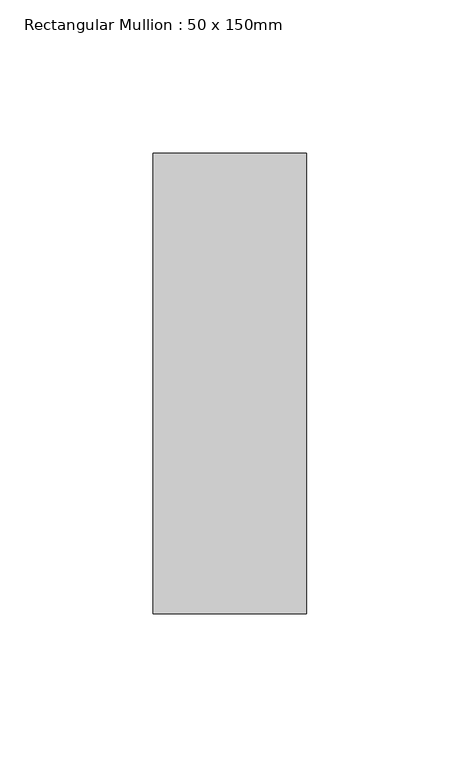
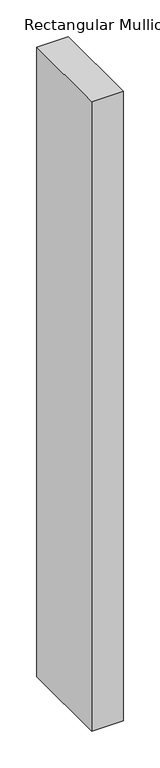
"""IFC4 building model written with IfcOpenShell, lengths in millimetres: member geometry, Rectangular Mullion : 50 x 150mm."""

from ifc_helpers import new_model, si_unit, frame, origin, place, context, project, spatial, polyline, outline, extrude, source, transform, mapped, element, save


def rectangular_mullion_50_x_150mm_02dbcc17(model_context):
    return source(origin(), model_context, "Body", "SweptSolid", [
        extrude(outline(polyline([(0.0, 75.0), (0.0, -75.0), (-50.0, -75.0), (-50.0, 75.0), (0.0, 75.0)])), frame((0.0, 0.0, -1049.1726933), z_axis=(0.0, 0.0, 1.0), x_axis=(1.0, 0.0, 0.0)), (0.0, 0.0, 1.0), 1049.1726933),
    ])


if __name__ == "__main__":
    model = new_model("IFC4")
    model_context = context("Model", 3, world=origin())
    ifc_project = project(units=[si_unit("LENGTHUNIT", "METRE", prefix="MILLI")], contexts=[model_context])
    site = spatial("IfcSite", under=ifc_project)
    building = spatial("IfcBuilding", under=site)
    placement = place(None, origin())
    rectangular_mullion_50_x_150mm_shape = rectangular_mullion_50_x_150mm_02dbcc17(model_context)
    element("IfcMember", 1, ObjectType="Rectangular Mullion : 50 x 150mm", at=placement, inside=building, context=model_context, shape_type="MappedRepresentation", body=[
        mapped(rectangular_mullion_50_x_150mm_shape, transform((0.0, 0.0, 0.0), x_axis=(1.0, 0.0, 0.0), y_axis=(0.0, 1.0, 0.0), z_axis=(0.0, 0.0, 1.0))),
    ])
    save(model, "model.ifc")
